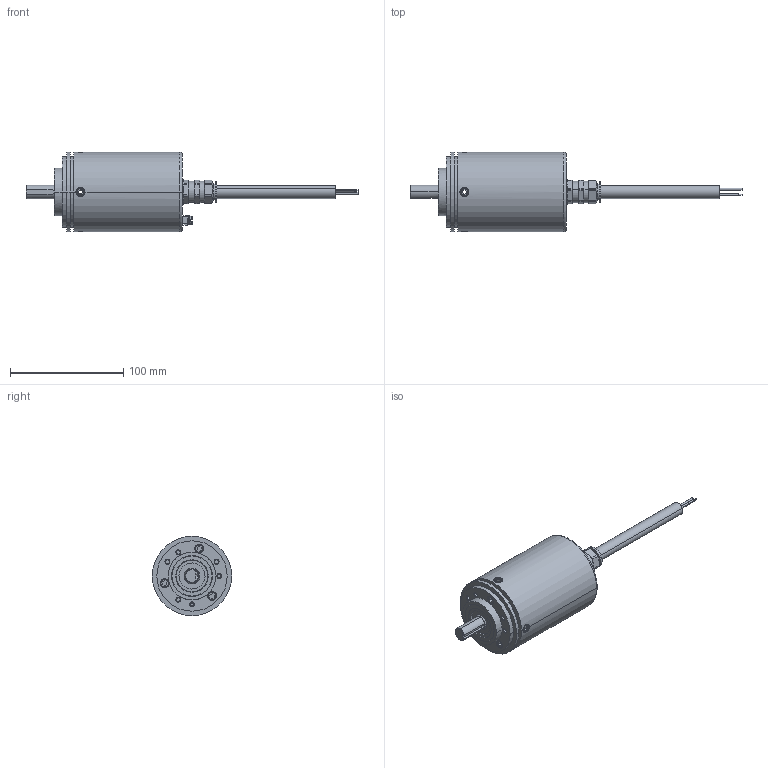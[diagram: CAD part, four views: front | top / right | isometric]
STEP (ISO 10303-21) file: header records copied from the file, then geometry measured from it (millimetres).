
FILE_DESCRIPTION (( 'STEP AP214' ), '1' );
FILE_NAME ('8.7058.1131.XXXX.STEP', '2011-01-27T08:54:10', ( 'admin' ), ( 'Fritz Kübler GmbH' ), 'SwSTEP 2.0', 'SolidWorks 2009', '' );
FILE_SCHEMA (( 'AUTOMOTIVE_DESIGN' ));
Length unit declared in the file: millimetre
Products named in the file (1): 8.7058.1131.XXXX
Bounding box: 292.7 x 70 x 70 mm (x, y, z)
Surface area: 46580 mm2 (no closed solid volume)
Topology: 0 solids, 23 shells, 281 faces, 740 edges, 485 vertices
Faces by surface type: cylinder 127, plane 106, cone 33, torus 15
Entity records: 12092 total; most frequent: CARTESIAN_POINT 2023, DIRECTION 1542, ORIENTED_EDGE 1292, EDGE_CURVE 740, AXIS2_PLACEMENT_3D 588, VERTEX_POINT 485, VECTOR 366, LINE 366
